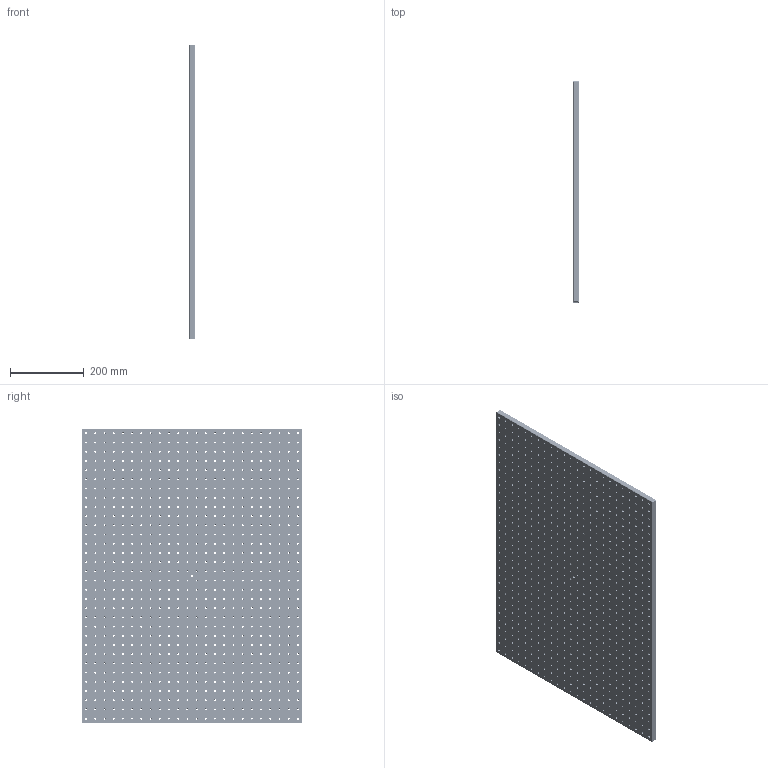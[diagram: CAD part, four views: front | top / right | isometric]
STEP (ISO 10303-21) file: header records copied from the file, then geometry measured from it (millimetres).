
FILE_DESCRIPTION(/* description */ (''),/* implementation_level */ '2;1');
FILE_NAME(/* name */ 'U:\KONSTRUKTORIAI\DOKUMENTACIJA\1\1B-ALE\1B-ALE-60-80-015\step\1B-ALE-60-80-015.stp',/* time_stamp */ '2016-06-15T08:17:52+03:00',/* author */ ('dsgn31'),/* organization */ (''),/* preprocessor_version */ 'ST-DEVELOPER v15.2',/* originating_system */ 'Autodesk Inventor 2014',/* authorisation */ '');
FILE_SCHEMA (('AUTOMOTIVE_DESIGN { 1 0 10303 214 3 1 1 }'));
Length unit declared in the file: millimetre
Products named in the file (1): 1B-ALE-60-80-015.01
Bounding box: 15 x 600 x 800 mm (x, y, z)
Volume: 6973417.2 mm3; surface area: 1144450.9 mm2
Topology: 1 solids, 1 shells, 2325 faces, 6182 edges, 3864 vertices
Faces by surface type: cone 1528, cylinder 774, plane 23
Full cylindrical faces by diameter (mm): 4.917 x764, 6.5 x5, 11 x5
Entity records: 57407 total; most frequent: DIRECTION 10844, CARTESIAN_POINT 8542, ORIENTED_EDGE 6232, EDGE_LOOP 6170, AXIS2_PLACEMENT_3D 5402, FACE_BOUND 3847, EDGE_CURVE 3116, VERTEX_POINT 3100
